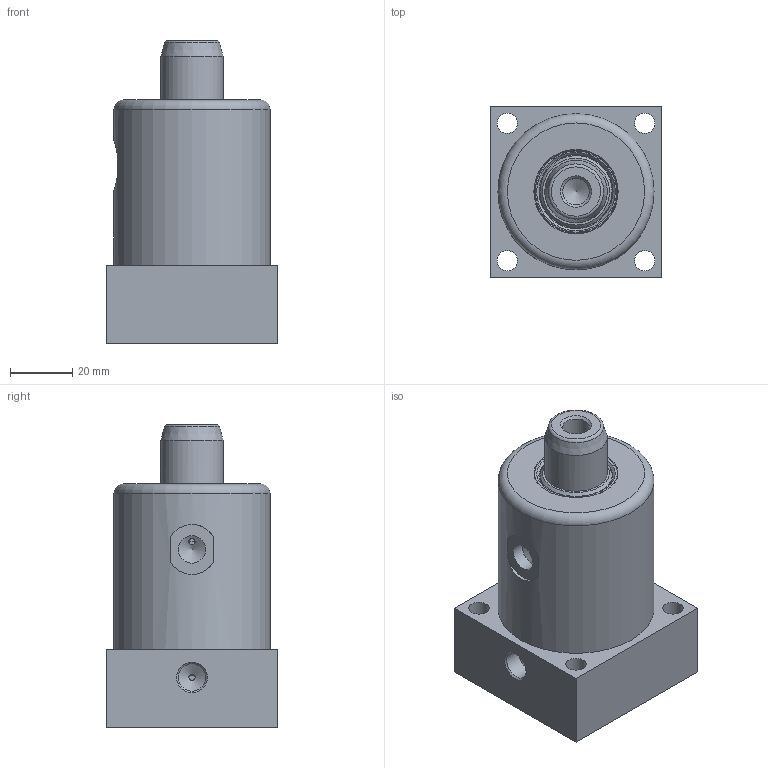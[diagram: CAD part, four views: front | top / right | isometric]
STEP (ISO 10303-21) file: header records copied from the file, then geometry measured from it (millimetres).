
FILE_DESCRIPTION(/* description */ (''),/* implementation_level */ '2;1');
FILE_NAME(/* name */ 'C:/Users/DLL/Desktop/HMKA_32_WEB.step',/* time_stamp */ '2022-06-15T18:59:45+03:00',/* author */ (''),/* organization */ (''),/* preprocessor_version */ 'ST-DEVELOPER v19',/* originating_system */ 'Autodesk Translation Framework v11.7.0.108',/* authorisation */ '');
FILE_SCHEMA (('AUTOMOTIVE_DESIGN { 1 0 10303 214 3 1 1 }'));
Length unit declared in the file: millimetre
Products named in the file (7): HMKA_32_WEB; HMKA_32_BORU_GOVDE; HMKA_32_ARKA_KAPAK; 12_KANALLI_MÝL; 20_K_MIL; HMKA_32_KEÇE_YATAGI; K05-20X26X4
Assembly tree (6 placements, depth 2):
  HMKA_32_WEB
    HMKA_32_BORU_GOVDE
    HMKA_32_ARKA_KAPAK
    12_KANALLI_MÝL
    20_K_MIL
    HMKA_32_KEÇE_YATAGI
    K05-20X26X4
Bounding box: 55 x 55 x 97 mm (x, y, z)
Volume: 160718 mm3; surface area: 52130 mm2
Topology: 6 solids, 6 shells, 260 faces, 641 edges, 409 vertices
Faces by surface type: cylinder 105, plane 68, cone 45, bspline 34, torus 5, sphere 3
Full cylindrical faces by diameter (mm): 2 x8, 2.4 x3, 4 x3, 4.558 x1, 6.5 x4, 8.5 x1, 8.8 x2, 11 x1, 12 x3, 12.1 x1, 17 x1, 18.326 x9, 19.95 x8, 20 x1, 20.5 x3, 21 x1, 21.4 x1, 25 x1, 26 x2, 27 x1, 28 x2, 28.8 x1, 31.5 x3, 31.8 x1, 32 x1, 37 x1, 40 x1, 50 x1
Entity records: 14898 total; most frequent: CARTESIAN_POINT 8810, ORIENTED_EDGE 1264, DIRECTION 1146, EDGE_CURVE 632, AXIS2_PLACEMENT_3D 464, VERTEX_POINT 409, EDGE_LOOP 323, FACE_OUTER_BOUND 260
